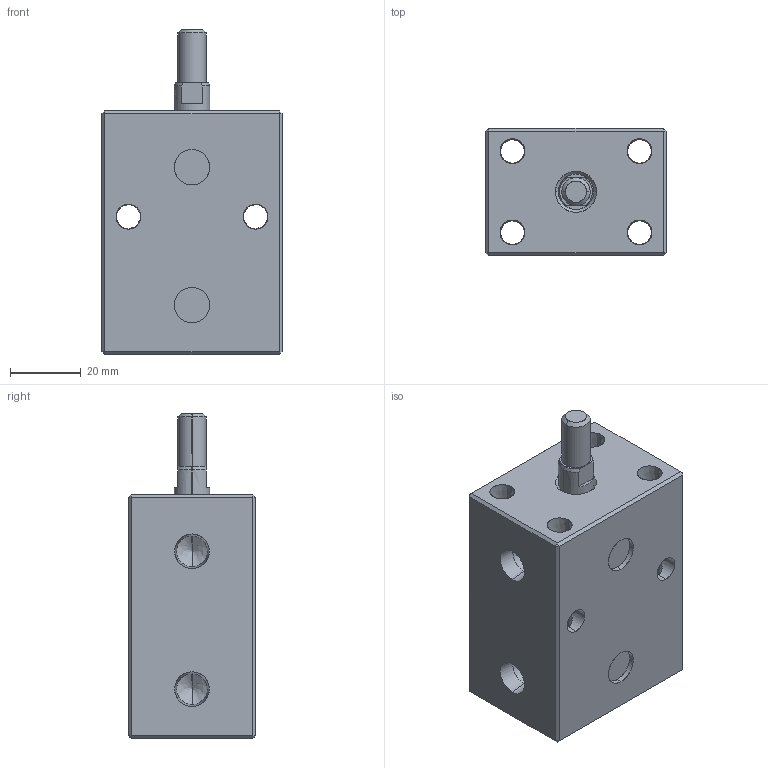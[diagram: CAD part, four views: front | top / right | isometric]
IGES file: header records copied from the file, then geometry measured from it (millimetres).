
Start section: SolidWorks IGES file using analytic representation for surfaces
Global section: file name: E:\ALL-SSVT-BLOCK\IGS-MODEL\BC04-16-25-M.IGS; native system: SolidWorks 2019; preprocessor: SolidWorks 2019; author: SSVT; date: 210823.153614; units: millimetre
Bounding box: 51 x 36 x 92 mm (x, y, z)
Surface area: 25712.3 mm2 (no closed solid volume)
Topology: 0 solids, 0 shells, 92 faces, 1651 edges, 1647 vertices
Faces by surface type: revolution 57, bspline 35
